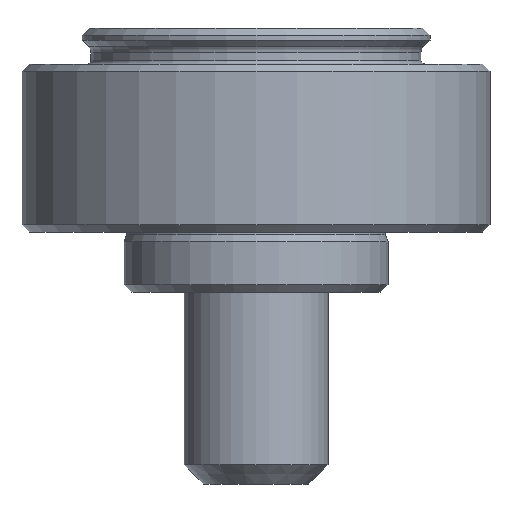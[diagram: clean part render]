
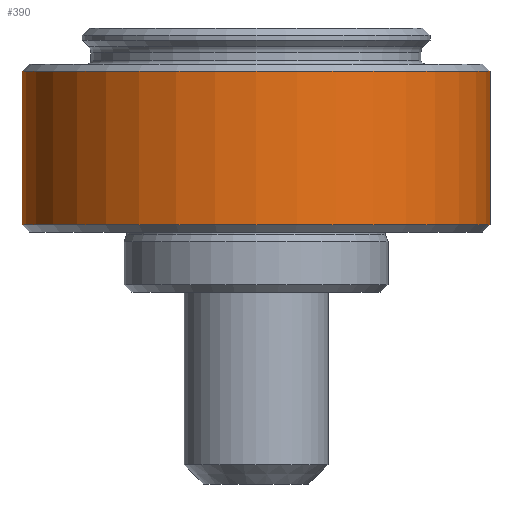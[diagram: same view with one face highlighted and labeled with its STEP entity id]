
A CAD part, front view. The second image highlights one B-rep face of the part: STEP entity #390.
In plain terms, the highlighted cylindrical face has radius 19.5 mm (diameter 39 mm), a full revolution.
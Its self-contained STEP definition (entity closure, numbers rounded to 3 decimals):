
#390=ADVANCED_FACE('',(#725,#727),#729,.T.);
#725=FACE_OUTER_BOUND('',#726,.T.);
#726=EDGE_LOOP('',(#834));
#727=FACE_OUTER_BOUND('',#728,.T.);
#728=EDGE_LOOP('',(#835));
#729=CYLINDRICAL_SURFACE('',#730,19.5);
#730=AXIS2_PLACEMENT_3D('',#731,#732,#733);
#731=CARTESIAN_POINT('',(0.,0.,19.));
#732=DIRECTION('',(0.,0.,1.));
#733=DIRECTION('',(1.,0.,0.));
#834=ORIENTED_EDGE('',*,*,#886,.F.);
#835=ORIENTED_EDGE('',*,*,#885,.T.);
#885=EDGE_CURVE('',#979,#979,#980,.T.);
#886=EDGE_CURVE('',#981,#981,#982,.T.);
#979=VERTEX_POINT('',#1456);
#980=CIRCLE('',#1457,19.5);
#981=VERTEX_POINT('',#1461);
#982=CIRCLE('',#1462,19.5);
#1456=CARTESIAN_POINT('',(19.5,0.,5.6));
#1457=AXIS2_PLACEMENT_3D('',#1458,#1459,#1460);
#1458=CARTESIAN_POINT('',(0.,0.,5.6));
#1459=DIRECTION('',(0.,0.,1.));
#1460=DIRECTION('',(1.,0.,0.));
#1461=CARTESIAN_POINT('',(19.5,0.,18.4));
#1462=AXIS2_PLACEMENT_3D('',#1463,#1464,#1465);
#1463=CARTESIAN_POINT('',(0.,0.,18.4));
#1464=DIRECTION('',(0.,0.,1.));
#1465=DIRECTION('',(1.,0.,0.));
